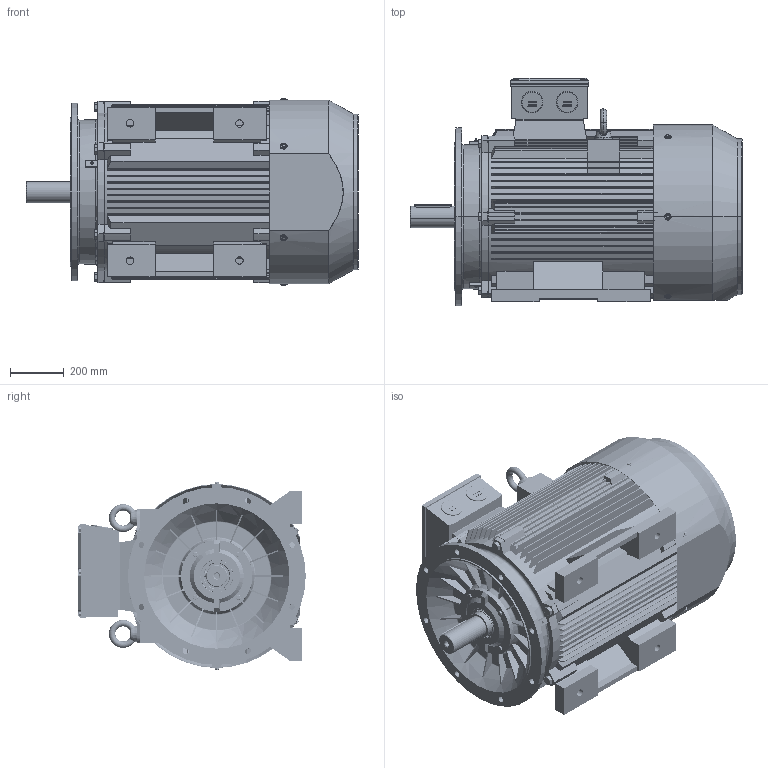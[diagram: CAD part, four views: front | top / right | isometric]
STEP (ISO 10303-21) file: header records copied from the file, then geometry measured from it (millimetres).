
FILE_DESCRIPTION (( 'STEP AP203' ), '1' );
FILE_NAME ('Motor-315S-4_B35_Step.STEP', '2024-06-26T10:15:44', ( '' ), ( '' ), 'SwSTEP 2.0', 'SolidWorks 2021', '' );
FILE_SCHEMA (( 'CONFIG_CONTROL_DESIGN' ));
Length unit declared in the file: millimetre
Products named in the file (22): M10-25_____^Motor-315S-4_B35_Step(2)_Motor-315S-4_B35_Step; TC 315_____________-1^Motor-315S-4_B35_Step(2)_Motor-315S-4_B35_Step; ___________^Motor-315S-4_B35_Step(2)_Motor-315S-4_B35_Step; TC 315_____________^Motor-315S-4_B35_Step(2)_Motor-315S-4_B35_Step; TC 315-4 B3___________^Motor-315S-4_B35_Step(2)_Motor-315S-4_B35_Step; ___________________^Motor-315S-4_B35_Step(2)_Motor-315S-4_B35_Step; _________^Motor-315S-4_B35_Step(2)_Motor-315S-4_B35_Step; Motor-315S-4_B35_Step(2)^Motor-315S-4_B35_Step; TX315___________________^Motor-315S-4_B35_Step(2)_Motor-315S-4_B35_Step; ____M30_____^Motor-315S-4_B35_Step(2)_Motor-315S-4_B35_Step; Motor-315S-4_B35_Step; TX315_______________^Motor-315S-4_B35_Step(2)_Motor-315S-4_B35_Step; TC 315S ____ B3_____^Motor-315S-4_B35_Step(2)_Motor-315S-4_B35_Step; ____120-95-12_____^Motor-315S-4_B35_Step(2)_Motor-315S-4_B35_Step; M20-70_____^Motor-315S-4_B35_Step(2)_Motor-315S-4_B35_Step; TC 315S-4_________^Motor-315S-4_B35_Step(2)_Motor-315S-4_B35_Step; TC 315-4_________-0^Motor-315S-4_B35_Step(2)_Motor-315S-4_B35_Step; TC 315-4_________^Motor-315S-4_B35_Step(2)_Motor-315S-4_B35_Step; M10-90_____^Motor-315S-4_B35_Step(2)_Motor-315S-4_B35_Step; TC 315-4_____________^Motor-315S-4_B35_Step(2)_Motor-315S-4_B35_Step; M63_________^Motor-315S-4_B35_Step(2)_Motor-315S-4_B35_Step; TC 315-4 B5_________^Motor-315S-4_B35_Step(2)_Motor-315S-4_B35_Step
Assembly tree (42 placements, depth 3):
  Motor-315S-4_B35_Step
    Motor-315S-4_B35_Step(2)^Motor-315S-4_B35_Step
      _________^Motor-315S-4_B35_Step(2)_Motor-315S-4_B35_Step
      M10-90_____^Motor-315S-4_B35_Step(2)_Motor-315S-4_B35_Step  x4
      M10-25_____^Motor-315S-4_B35_Step(2)_Motor-315S-4_B35_Step  x6
      ___________________^Motor-315S-4_B35_Step(2)_Motor-315S-4_B35_Step  x6
      ___________^Motor-315S-4_B35_Step(2)_Motor-315S-4_B35_Step
      M20-70_____^Motor-315S-4_B35_Step(2)_Motor-315S-4_B35_Step  x6
      TC 315-4_________^Motor-315S-4_B35_Step(2)_Motor-315S-4_B35_Step
      TX315_______________^Motor-315S-4_B35_Step(2)_Motor-315S-4_B35_Step
      TC 315-4 B3___________^Motor-315S-4_B35_Step(2)_Motor-315S-4_B35_Step
      TC 315-4_____________^Motor-315S-4_B35_Step(2)_Motor-315S-4_B35_Step  x2
      TC 315_____________^Motor-315S-4_B35_Step(2)_Motor-315S-4_B35_Step
      TC 315-4_________-0^Motor-315S-4_B35_Step(2)_Motor-315S-4_B35_Step
      ____M30_____^Motor-315S-4_B35_Step(2)_Motor-315S-4_B35_Step  x2
      TC 315-4 B5_________^Motor-315S-4_B35_Step(2)_Motor-315S-4_B35_Step
      TC 315S ____ B3_____^Motor-315S-4_B35_Step(2)_Motor-315S-4_B35_Step
      TC 315_____________-1^Motor-315S-4_B35_Step(2)_Motor-315S-4_B35_Step
      ____120-95-12_____^Motor-315S-4_B35_Step(2)_Motor-315S-4_B35_Step
      M63_________^Motor-315S-4_B35_Step(2)_Motor-315S-4_B35_Step  x2
      TC 315S-4_________^Motor-315S-4_B35_Step(2)_Motor-315S-4_B35_Step
      TX315___________________^Motor-315S-4_B35_Step(2)_Motor-315S-4_B35_Step
Bounding box: 1232 x 844 x 694.6 mm (x, y, z)
Volume: 101944167.2 mm3; surface area: 12155880.8 mm2
Topology: 42 solids, 42 shells, 7745 faces, 21685 edges, 14216 vertices
Faces by surface type: plane 5631, cylinder 851, cone 434, torus 403, sphere 244, bspline 182
Entity records: 282416 total; most frequent: CARTESIAN_POINT 91464, ORIENTED_EDGE 40720, DIRECTION 35145, EDGE_CURVE 20360, VECTOR 15283, LINE 15283, VERTEX_POINT 13388, AXIS2_PLACEMENT_3D 9931
